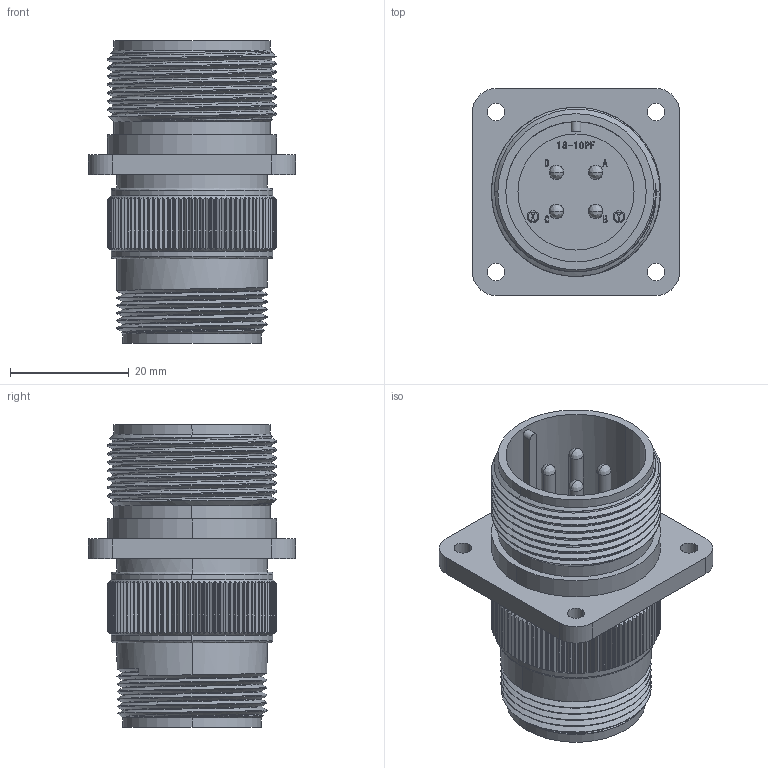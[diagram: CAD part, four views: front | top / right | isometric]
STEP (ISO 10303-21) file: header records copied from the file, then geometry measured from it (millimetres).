
FILE_DESCRIPTION (( 'STEP AP203' ), '1' );
FILE_NAME ('DMS3100A18-10P.STEP', '2017-07-10T01:44:31', ( '' ), ( '' ), 'SwSTEP 2.0', 'SolidWorks 2015', '' );
FILE_SCHEMA (( 'CONFIG_CONTROL_DESIGN' ));
Products named in the file (1): DMS3100A18-10P
Bounding box: 34.92 x 34.92 x 51.06 mm (x, y, z)
Volume: 16439.1 mm3; surface area: 13305.5 mm2
Topology: 1 solids, 1 shells, 1261 faces, 3536 edges, 2335 vertices
Faces by surface type: cylinder 560, plane 456, bspline 227, cone 18
Entity records: 55759 total; most frequent: CARTESIAN_POINT 26625, ORIENTED_EDGE 7056, DIRECTION 4483, EDGE_CURVE 3528, VERTEX_POINT 2335, LINE 1549, VECTOR 1549, B_SPLINE_CURVE_WITH_KNOTS 1477
